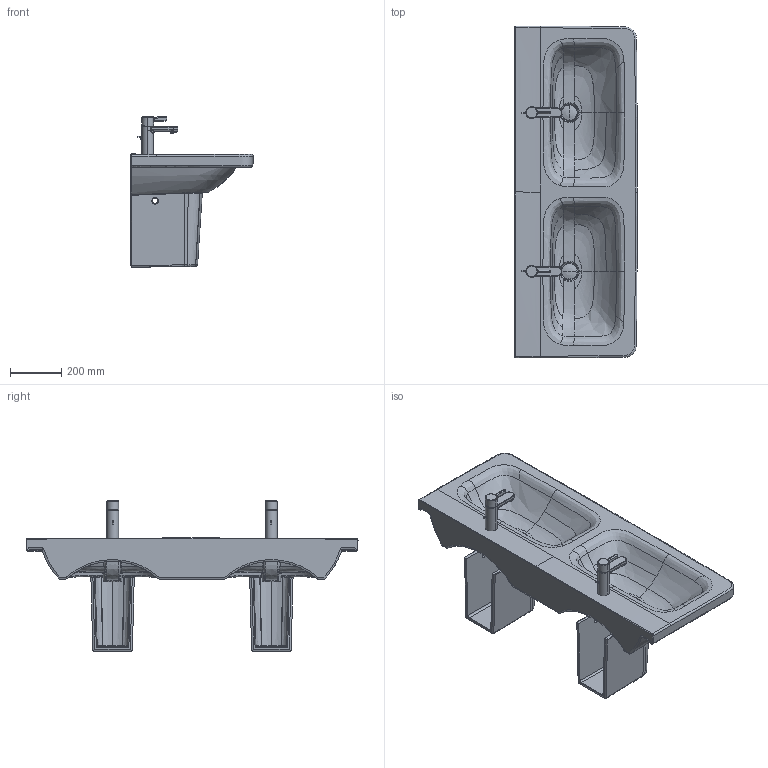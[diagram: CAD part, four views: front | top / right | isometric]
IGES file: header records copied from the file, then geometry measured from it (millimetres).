
Global section: file name: No Iges File Name specified; native system: Autodesk Inventor 2011; preprocessor: AutoDesk Inventor Iges Exporter R2011; author: Administrator; date: 20150527.150215; units: millimetre
Bounding box: 480.03 x 1300.5 x 589.36 mm (x, y, z)
Volume: 42377117.3 mm3; surface area: 3050860 mm2
Topology: 15 solids, 15 shells, 1020 faces, 2534 edges, 1536 vertices
Faces by surface type: bspline 574, plane 166, revolution 134, cylinder 106, torus 30, cone 6, sphere 4
